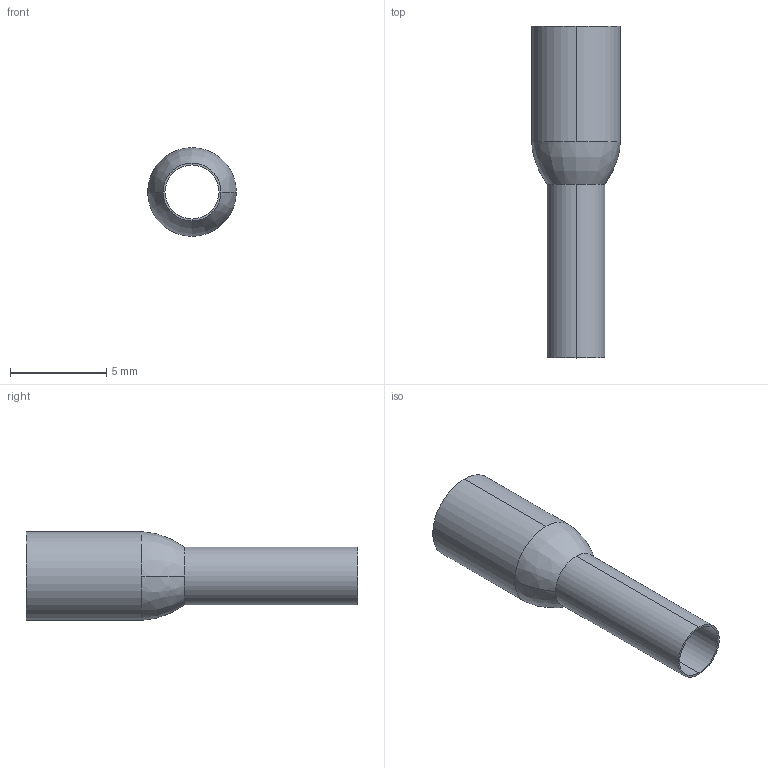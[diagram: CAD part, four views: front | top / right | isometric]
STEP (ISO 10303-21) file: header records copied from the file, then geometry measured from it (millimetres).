
FILE_DESCRIPTION (( 'STEP AP214' ), '1' );
FILE_NAME ('278028 OptiKit T-Shv-PVC-4-9.STEP', '2020-02-19T10:11:40', ( '' ), ( '' ), 'SwSTEP 2.0', 'SolidWorks 2018', '' );
FILE_SCHEMA (( 'AUTOMOTIVE_DESIGN' ));
Length unit declared in the file: millimetre
Products named in the file (1): 278028 OptiKit T-Shv-PVC-4-9
Bounding box: 4.6 x 17.2 x 4.6 mm (x, y, z)
Volume: 19.3 mm3; surface area: 394.4 mm2
Topology: 1 solids, 1 shells, 14 faces, 36 edges, 24 vertices
Faces by surface type: cylinder 8, bspline 4, plane 2
Entity records: 684 total; most frequent: CARTESIAN_POINT 147, DIRECTION 78, ORIENTED_EDGE 72, EDGE_CURVE 36, AXIS2_PLACEMENT_3D 35, CIRCLE 24, VERTEX_POINT 24, UNCERTAINTY_MEASURE_WITH_UNIT 17
